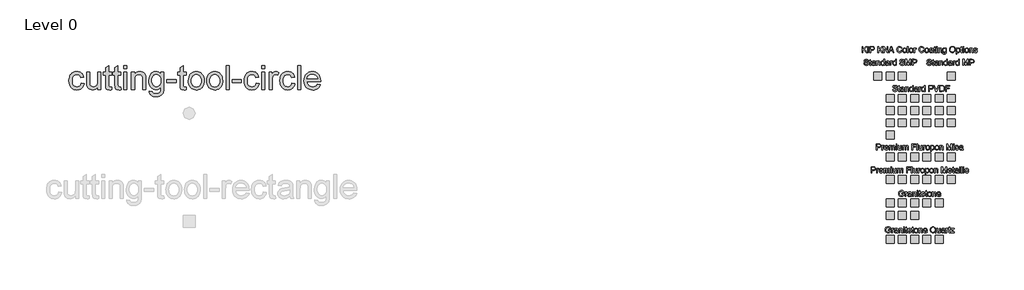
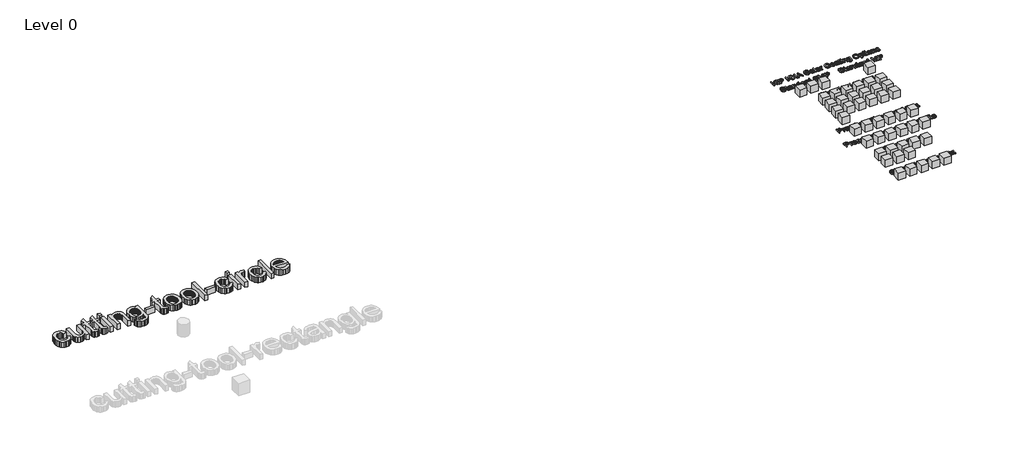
# One storey, part 3 of 3: 50 proxies.
"""IFC4 building model written with IfcOpenShell, lengths in millimetres."""

from ifc_helpers import new_model, si_unit, origin, origin_with_axes, place, context, project, spatial, polyline, outline, extrude, transform, mapped, element, save
from components import ks_color_sample_ks_color_sample_0243efec, r19_kna_color_range_kingspan_quadcore_4278cd54, r19_kna_color_range_kingspan_quadcore_c5814d20, r19_kna_color_range_kingspan_quadcore_91b79b7c

model = new_model("IFC4")

# Units and contexts
model_context = context("Model", 3, world=origin())
ifc_project = project(units=[si_unit("LENGTHUNIT", "METRE", prefix="MILLI")], contexts=[model_context])

# Site, building, storey
site = spatial("IfcSite", under=ifc_project)
building = spatial("IfcBuilding", under=site)
storey = spatial("IfcBuildingStorey", under=building, Name="Level 0", Elevation=0.0)

# Proxies
placement = place(None, origin())
element("IfcBuildingElementProxy", 1, Name="24\" Arial", ObjectType="24\" Arial", at=placement, inside=storey, context=model_context, shape_type="SweptSolid", body=[
    extrude(outline(polyline([(-7973.038933, 13462.8985617), (-7896.8971594, 13453.38084), (-7905.1786927, 13417.4523701), (-7918.1261402, 13385.6600195), (-7935.7395022, 13358.0037881), (-7958.0187784, 13334.4836761), (-7984.0252094, 13315.7131302), (-8012.8200353, 13302.3055975), (-8044.4032563, 13294.2610778), (-8078.7748724, 13291.5795713), (-8121.4791422, 13295.320668), (-8159.7684532, 13306.5439579), (-8193.6428055, 13325.2494412), (-8223.1021989, 13351.4371179), (-8246.9476237, 13384.6143713), (-8263.98007, 13424.2885852), (-8274.1995378, 13470.4597596), (-8277.606027, 13523.1278943), (-8271.7875761, 13590.8858934), (-8264.5145124, 13621.376993), (-8254.3322232, 13649.6094927), (-8241.1709987, 13675.0164187), (-8224.9611289, 13697.0307974), (-8205.702614, 13715.6526289), (-8183.3954537, 13730.881913), (-8159.0481178, 13742.7232972), (-8133.6690758, 13751.1814288), (-8107.2583276, 13756.2563078), (-8079.8158732, 13757.9479341), (-8046.0344674, 13755.6242716), (-8015.4783053, 13748.653284), (-7988.1473867, 13737.0349714), (-7964.0417117, 13720.7693337), (-7943.5702449, 13700.228157), (-7927.1419508, 13675.7832273), (-7914.7568296, 13647.4345445), (-7906.4148811, 13615.1821087), (-7982.5566547, 13605.6643871), (-7996.3685047, 13638.8834665), (-8017.876325, 13662.69636), (-8045.8904003, 13677.0287104), (-8079.2210156, 13681.8061606), (-8105.0926741, 13679.4546141), (-8128.4268931, 13672.3999747), (-8149.2236727, 13660.6422423), (-8167.4830128, 13644.181417), (-8182.3498056, 13622.6364181), (-8192.9689433, 13595.626165), (-8199.340426, 13563.1506576), (-8201.4642535, 13525.2098959), (-8199.3868992, 13486.6975133), (-8193.1548363, 13453.8455725), (-8182.7680649, 13426.6540737), (-8168.2265848, 13405.1230168), (-8150.3297361, 13388.7597853), (-8129.8768585, 13377.0717628), (-8106.8679522, 13370.0589493), (-8081.3030172, 13367.7213448), (-8041.8751115, 13373.5583851), (-8024.8240759, 13380.8546854), (-8009.5483185, 13391.0695058), (-7996.4753932, 13404.3143822), (-7986.0328538, 13420.7008503), (-7978.2207004, 13440.2289101), (-7973.038933, 13462.8985617)])), origin_with_axes(), (0.0, 0.0, 1.0), 152.4),
    extrude(outline(polyline([(-7544.7414569, 13301.097293), (-7544.7414569, 13377.9826385), (-7572.2907998, 13340.1812966), (-7604.3759319, 13313.1803381), (-7640.9968532, 13296.979763), (-7682.1535638, 13291.5795713), (-7719.2392177, 13295.3717885), (-7753.7595481, 13306.7484402), (-7782.7216778, 13323.8505964), (-7803.1327294, 13344.819327), (-7816.8702222, 13370.2866682), (-7825.8116756, 13400.8846563), (-7830.2731076, 13471.6727114), (-7830.2731076, 13748.4302124), (-7754.1313341, 13748.4302124), (-7754.1313341, 13507.5128821), (-7752.9787975, 13459.3294161), (-7749.5211877, 13429.8839646), (-7738.4233755, 13403.9890695), (-7719.4065214, 13384.3030006), (-7693.7346978, 13371.8667588), (-7662.6719772, 13367.7213448), (-7629.8246838, 13371.9597053), (-7599.0965706, 13384.6747866), (-7573.7593545, 13404.6954629), (-7557.0847522, 13430.8506082), (-7547.8272808, 13466.6721896), (-7544.7414569, 13515.6921742), (-7544.7414569, 13748.4302124), (-7468.5996834, 13748.4302124), (-7468.5996834, 13301.097293), (-7544.7414569, 13301.097293)])), origin_with_axes(), (0.0, 0.0, 1.0), 152.4),
    extrude(outline(polyline([(-7202.1034761, 13364.5983424), (-7192.5857544, 13298.866577), (-7222.7375993, 13293.4013227), (-7249.5433701, 13291.5795713), (-7286.0899343, 13294.7397523), (-7313.3418483, 13304.2202954), (-7332.6003633, 13318.8314854), (-7345.1667302, 13337.3836069), (-7352.0819499, 13369.2456674), (-7354.3870231, 13423.7866741), (-7354.3870231, 13672.2884389), (-7411.4933533, 13672.2884389), (-7411.4933533, 13748.4302124), (-7354.3870231, 13748.4302124), (-7354.3870231, 13857.1404398), (-7278.2452496, 13901.9034746), (-7278.2452496, 13748.4302124), (-7202.1034761, 13748.4302124), (-7202.1034761, 13672.2884389), (-7278.2452496, 13672.2884389), (-7278.2452496, 13426.0173902), (-7274.2299608, 13386.7567882), (-7261.2174507, 13372.8519917), (-7250.2311743, 13369.0040065), (-7235.2667876, 13367.7213448), (-7202.1034761, 13364.5983424)])), origin_with_axes(), (0.0, 0.0, 1.0), 152.4),
    extrude(outline(polyline([(-6964.1604339, 13364.5983424), (-6954.6427122, 13298.866577), (-6984.7945571, 13293.4013227), (-7011.6003279, 13291.5795713), (-7048.1468921, 13294.7397523), (-7075.3988061, 13304.2202954), (-7094.6573211, 13318.8314854), (-7107.223688, 13337.3836069), (-7114.1389077, 13369.2456674), (-7116.4439809, 13423.7866741), (-7116.4439809, 13672.2884389), (-7173.550311, 13672.2884389), (-7173.550311, 13748.4302124), (-7116.4439809, 13748.4302124), (-7116.4439809, 13857.1404398), (-7040.3022074, 13901.9034746), (-7040.3022074, 13748.4302124), (-6964.1604339, 13748.4302124), (-6964.1604339, 13672.2884389), (-7040.3022074, 13672.2884389), (-7040.3022074, 13426.0173902), (-7036.2869185, 13386.7567882), (-7023.2744084, 13372.8519917), (-7012.288132, 13369.0040065), (-6997.3237454, 13367.7213448), (-6964.1604339, 13364.5983424)])), origin_with_axes(), (0.0, 0.0, 1.0), 152.4),
    extrude(outline(polyline([(-6888.0186603, 13834.0897076), (-6888.0186603, 13910.2314811), (-6811.8768868, 13910.2314811), (-6811.8768868, 13834.0897076), (-6888.0186603, 13834.0897076)])), origin_with_axes(), (0.0, 0.0, 1.0), 152.4),
    extrude(outline(polyline([(-6888.0186603, 13301.097293), (-6888.0186603, 13748.4302124), (-6811.8768868, 13748.4302124), (-6811.8768868, 13301.097293), (-6888.0186603, 13301.097293)])), origin_with_axes(), (0.0, 0.0, 1.0), 152.4),
    extrude(outline(polyline([(-6697.6642265, 13301.097293), (-6697.6642265, 13748.4302124), (-6621.522453, 13748.4302124), (-6621.522453, 13685.9701638), (-6595.0698789, 13717.4604383), (-6563.3007649, 13739.9534915), (-6526.215111, 13753.4493234), (-6483.8129173, 13757.9479341), (-6446.2811203, 13754.3230206), (-6411.9095043, 13743.44828), (-6383.2448034, 13726.6807312), (-6362.8337518, 13705.3773932), (-6348.9847232, 13679.5940338), (-6340.0060912, 13649.3864211), (-6335.9908023, 13575.7727924), (-6335.9908023, 13301.097293), (-6412.1325759, 13301.097293), (-6412.1325759, 13565.5114987), (-6414.3261133, 13604.8836364), (-6420.9067255, 13632.8791225), (-6433.0455386, 13652.9369774), (-6451.9136782, 13668.4962216), (-6476.0983578, 13678.4786758), (-6504.1867903, 13681.8061606), (-6527.3072324, 13679.9379359), (-6548.7825214, 13674.3332619), (-6568.6126574, 13664.9921386), (-6586.7976403, 13651.9145659), (-6601.9897459, 13633.6133999), (-6612.8412499, 13608.6014965), (-6619.3521522, 13576.8788557), (-6621.522453, 13538.4454776), (-6621.522453, 13301.097293), (-6697.6642265, 13301.097293)])), origin_with_axes(), (0.0, 0.0, 1.0), 152.4),
    extrude(outline(polyline([(-6250.3313071, 13263.0264062), (-6174.1895336, 13253.5086845), (-6165.7871699, 13229.7143803), (-6149.502943, 13213.3557962), (-6117.4921681, 13200.6407148), (-6075.5918855, 13196.4023544), (-6030.9032079, 13201.1983938), (-6012.8529974, 13207.1934432), (-5997.6655392, 13215.5865122), (-5974.6148069, 13238.6372444), (-5960.4869388, 13269.4211255), (-5956.3601142, 13302.1754724), (-5955.2819348, 13358.2036231), (-5980.6191509, 13333.2196037), (-6008.8934765, 13315.3738755), (-6040.1049115, 13304.6664386), (-6074.2534559, 13301.097293), (-6116.0003767, 13305.2520016), (-6152.7560705, 13317.7161273), (-6184.5205372, 13338.4896703), (-6211.2937768, 13367.5726304), (-6232.5366995, 13402.4647468), (-6247.7102158, 13440.6657587), (-6256.8143256, 13482.175666), (-6259.8490288, 13526.9944687), (-6254.4023639, 13588.4692844), (-6238.062369, 13644.9993462), (-6225.95144, 13670.4899241), (-6211.4053126, 13692.9039728), (-6194.4239869, 13712.2414923), (-6175.0074628, 13728.5024826), (-6153.4671112, 13741.3848676), (-6130.1143029, 13750.5865712), (-6104.9490378, 13756.1075934), (-6077.9713159, 13757.9479341), (-6042.3635114, 13753.7839308), (-6010.0460131, 13741.2919211), (-5981.0188209, 13720.4719049), (-5955.2819348, 13691.3238823), (-5955.2819348, 13748.4302124), (-5879.1401612, 13748.4302124), (-5879.1401612, 13362.218912), (-5884.3451653, 13273.046039), (-5890.8514204, 13239.8780802), (-5899.9601774, 13214.3224398), (-5911.8898608, 13193.7115532), (-5926.8588948, 13175.3778559), (-5944.8672793, 13159.3213479), (-5965.9150145, 13145.5420291), (-5989.7883232, 13134.4813955), (-6016.2734286, 13126.5809429), (-6045.3703307, 13121.8406714), (-6077.0790295, 13120.2605809), (-6114.3831076, 13122.4866496), (-6147.9228525, 13129.1648557), (-6177.698264, 13140.2951991), (-6203.7093423, 13155.87768), (-6224.7198988, 13175.9308876), (-6239.4937451, 13200.4734111), (-6248.0308812, 13229.5052507), (-6250.3313071, 13263.0264062)]), holes=[polyline([(-6183.7072553, 13532.1994728), (-6181.6763743, 13494.5514926), (-6175.5837311, 13462.359472), (-6165.4293259, 13435.623411), (-6151.2131586, 13414.3433097), (-6133.9297568, 13398.1102033), (-6114.573648, 13386.5151273), (-6093.1448322, 13379.5580817), (-6069.6433094, 13377.2390665), (-6046.3741529, 13379.5441397), (-6025.0475783, 13386.4593594), (-6005.6635856, 13397.9847255), (-5988.2221747, 13414.120238), (-5973.8108197, 13435.1912098), (-5963.5169947, 13461.5229535), (-5957.3406998, 13493.1154691), (-5955.2819348, 13529.9687567), (-5957.401115, 13565.2837797), (-5963.7586556, 13595.9793617), (-5974.3545567, 13622.0555025), (-5989.1888183, 13643.5122022), (-6007.0066625, 13660.265809), (-6026.5533116, 13672.232671), (-6047.8287657, 13679.4127882), (-6070.8330246, 13681.8061606), (-6093.4515556, 13679.4499668), (-6114.3133978, 13672.3813854), (-6133.418551, 13660.6004164), (-6150.7670154, 13644.1070598), (-6165.1783704, 13622.9756728), (-6175.4721953, 13597.2806127), (-6181.6484903, 13567.0218793), (-6183.7072553, 13532.1994728)])]), origin_with_axes(), (0.0, 0.0, 1.0), 152.4),
    extrude(outline(polyline([(-5802.9983877, 13481.9340051), (-5802.9983877, 13558.0757786), (-5565.0553455, 13558.0757786), (-5565.0553455, 13481.9340051), (-5802.9983877, 13481.9340051)])), origin_with_axes(), (0.0, 0.0, 1.0), 152.4),
    extrude(outline(polyline([(-5317.5945816, 13364.5983424), (-5308.0768599, 13298.866577), (-5338.2287047, 13293.4013227), (-5365.0344756, 13291.5795713), (-5401.5810397, 13294.7397523), (-5428.8329538, 13304.2202954), (-5448.0914688, 13318.8314854), (-5460.6578357, 13337.3836069), (-5467.5730554, 13369.2456674), (-5469.8781286, 13423.7866741), (-5469.8781286, 13672.2884389), (-5526.9844587, 13672.2884389), (-5526.9844587, 13748.4302124), (-5469.8781286, 13748.4302124), (-5469.8781286, 13857.1404398), (-5393.7363551, 13901.9034746), (-5393.7363551, 13748.4302124), (-5317.5945816, 13748.4302124), (-5317.5945816, 13672.2884389), (-5393.7363551, 13672.2884389), (-5393.7363551, 13426.0173902), (-5389.7210662, 13386.7567882), (-5376.7085561, 13372.8519917), (-5365.7222797, 13369.0040065), (-5350.7578931, 13367.7213448), (-5317.5945816, 13364.5983424)])), origin_with_axes(), (0.0, 0.0, 1.0), 152.4),
    extrude(outline(polyline([(-5260.4882514, 13524.7637527), (-5256.3707214, 13582.6973067), (-5244.0181315, 13632.6188723), (-5223.4304815, 13674.5284496), (-5194.6077716, 13708.4260384), (-5165.589874, 13730.0918678), (-5133.5605098, 13745.5674602), (-5098.519679, 13754.8528156), (-5060.4673815, 13757.9479341), (-5018.4602105, 13754.1789535), (-4980.4776229, 13742.8720116), (-4946.5196188, 13724.0271086), (-4916.5861982, 13697.6442443), (-4892.1552104, 13664.6157052), (-4874.7045049, 13625.8337777), (-4864.2340816, 13581.2984618), (-4860.7439405, 13531.0097576), (-4862.2868524, 13490.2527169), (-4866.9155881, 13454.0872334), (-4874.6301477, 13422.5133071), (-4885.4305311, 13395.5309379), (-4899.1819659, 13372.2246028), (-4915.7496797, 13351.6787788), (-4935.1336724, 13333.8934658), (-4957.3339442, 13318.868664), (-4981.4860924, 13306.9296859), (-5006.7257147, 13298.4018445), (-5033.0528111, 13293.2851396), (-5060.4673815, 13291.5795713), (-5103.0879995, 13295.3346099), (-5141.4237838, 13306.5997258), (-5175.4747344, 13325.374919), (-5205.2408513, 13351.6601895), (-5229.4115888, 13385.009394), (-5246.6764014, 13424.9763894), (-5257.0352889, 13471.5611756), (-5260.4882514, 13524.7637527)]), holes=[polyline([(-5184.3464779, 13524.9124671), (-5182.1436458, 13487.980175), (-5175.5351496, 13456.0019313), (-5164.5209893, 13428.9777362), (-5149.1011648, 13406.9075896), (-5130.3445609, 13389.7636075), (-5109.3200624, 13377.517906), (-5086.0276693, 13370.1704851), (-5060.4673815, 13367.7213448), (-5035.0372189, 13370.1844271), (-5011.8377723, 13377.5736739), (-4990.8690417, 13389.8890853), (-4972.1310271, 13407.1306612), (-4956.7112026, 13429.4192321), (-4945.6970423, 13456.8756285), (-4939.088546, 13489.4998503), (-4936.885714, 13527.2918975), (-4939.102488, 13563.0530637), (-4945.7528102, 13594.1947888), (-4956.8366804, 13620.7170729), (-4972.3540987, 13642.6199158), (-4991.1618232, 13659.7638979), (-5012.1166118, 13672.0095994), (-5035.2184646, 13679.3570203), (-5060.4673815, 13681.8061606), (-5086.0276693, 13679.3663149), (-5109.3200624, 13672.046778), (-5130.3445609, 13659.8475497), (-5149.1011648, 13642.7686302), (-5164.5209893, 13620.7635461), (-5175.5351496, 13593.7858242), (-5182.1436458, 13561.8354646), (-5184.3464779, 13524.9124671)])]), origin_with_axes(), (0.0, 0.0, 1.0), 152.4),
    extrude(outline(polyline([(-4794.1198886, 13524.7637527), (-4790.0023586, 13582.6973067), (-4777.6497687, 13632.6188723), (-4757.0621187, 13674.5284496), (-4728.2394088, 13708.4260384), (-4699.2215112, 13730.0918678), (-4667.192147, 13745.5674602), (-4632.1513162, 13754.8528156), (-4594.0990187, 13757.9479341), (-4552.0918477, 13754.1789535), (-4514.1092601, 13742.8720116), (-4480.151256, 13724.0271086), (-4450.2178354, 13697.6442443), (-4425.7868476, 13664.6157052), (-4408.3361421, 13625.8337777), (-4397.8657188, 13581.2984618), (-4394.3755777, 13531.0097576), (-4395.9184896, 13490.2527169), (-4400.5472253, 13454.0872334), (-4408.2617849, 13422.5133071), (-4419.0621683, 13395.5309379), (-4432.8136031, 13372.2246028), (-4449.3813169, 13351.6787788), (-4468.7653096, 13333.8934658), (-4490.9655814, 13318.868664), (-4515.1177296, 13306.9296859), (-4540.3573519, 13298.4018445), (-4566.6844483, 13293.2851396), (-4594.0990187, 13291.5795713), (-4636.7196367, 13295.3346099), (-4675.055421, 13306.5997258), (-4709.1063716, 13325.374919), (-4738.8724885, 13351.6601895), (-4763.0432261, 13385.009394), (-4780.3080386, 13424.9763894), (-4790.6669261, 13471.5611756), (-4794.1198886, 13524.7637527)]), holes=[polyline([(-4717.9781151, 13524.9124671), (-4715.775283, 13487.980175), (-4709.1667868, 13456.0019313), (-4698.1526265, 13428.9777362), (-4682.732802, 13406.9075896), (-4663.9761981, 13389.7636075), (-4642.9516996, 13377.517906), (-4619.6593065, 13370.1704851), (-4594.0990187, 13367.7213448), (-4568.6688561, 13370.1844271), (-4545.4694095, 13377.5736739), (-4524.5006789, 13389.8890853), (-4505.7626643, 13407.1306612), (-4490.3428398, 13429.4192321), (-4479.3286795, 13456.8756285), (-4472.7201832, 13489.4998503), (-4470.5173512, 13527.2918975), (-4472.7341252, 13563.0530637), (-4479.3844474, 13594.1947888), (-4490.4683176, 13620.7170729), (-4505.9857359, 13642.6199158), (-4524.7934604, 13659.7638979), (-4545.748249, 13672.0095994), (-4568.8501018, 13679.3570203), (-4594.0990187, 13681.8061606), (-4619.6593065, 13679.3663149), (-4642.9516996, 13672.046778), (-4663.9761981, 13659.8475497), (-4682.732802, 13642.7686302), (-4698.1526265, 13620.7635461), (-4709.1667868, 13593.7858242), (-4715.775283, 13561.8354646), (-4717.9781151, 13524.9124671)])]), origin_with_axes(), (0.0, 0.0, 1.0), 152.4),
    extrude(outline(polyline([(-4308.7160825, 13301.097293), (-4308.7160825, 13910.2314811), (-4232.5743089, 13910.2314811), (-4232.5743089, 13301.097293), (-4308.7160825, 13301.097293)])), origin_with_axes(), (0.0, 0.0, 1.0), 152.4),
    extrude(outline(polyline([(-4156.4325354, 13481.9340051), (-4156.4325354, 13558.0757786), (-3918.4894932, 13558.0757786), (-3918.4894932, 13481.9340051), (-4156.4325354, 13481.9340051)])), origin_with_axes(), (0.0, 0.0, 1.0), 152.4),
    extrude(outline(polyline([(-3547.2983473, 13462.8985617), (-3471.1565738, 13453.38084), (-3479.438107, 13417.4523701), (-3492.3855546, 13385.6600195), (-3509.9989165, 13358.0037881), (-3532.2781927, 13334.4836761), (-3558.2846237, 13315.7131302), (-3587.0794497, 13302.3055975), (-3618.6626707, 13294.2610778), (-3653.0342867, 13291.5795713), (-3695.7385565, 13295.320668), (-3734.0278675, 13306.5439579), (-3767.9022198, 13325.2494412), (-3797.3616132, 13351.4371179), (-3821.207038, 13384.6143713), (-3838.2394843, 13424.2885852), (-3848.4589521, 13470.4597596), (-3851.8654413, 13523.1278943), (-3846.0469904, 13590.8858934), (-3838.7739267, 13621.376993), (-3828.5916375, 13649.6094927), (-3815.430413, 13675.0164187), (-3799.2205433, 13697.0307974), (-3779.9620283, 13715.6526289), (-3757.6548681, 13730.881913), (-3733.3075322, 13742.7232972), (-3707.9284901, 13751.1814288), (-3681.5177419, 13756.2563078), (-3654.0752875, 13757.9479341), (-3620.2938817, 13755.6242716), (-3589.7377196, 13748.653284), (-3562.406801, 13737.0349714), (-3538.301126, 13720.7693337), (-3517.8296592, 13700.228157), (-3501.4013651, 13675.7832273), (-3489.0162439, 13647.4345445), (-3480.6742955, 13615.1821087), (-3556.816069, 13605.6643871), (-3570.627919, 13638.8834665), (-3592.1357393, 13662.69636), (-3620.1498147, 13677.0287104), (-3653.4804299, 13681.8061606), (-3679.3520884, 13679.4546141), (-3702.6863074, 13672.3999747), (-3723.483087, 13660.6422423), (-3741.7424271, 13644.181417), (-3756.6092199, 13622.6364181), (-3767.2283577, 13595.626165), (-3773.5998403, 13563.1506576), (-3775.7236678, 13525.2098959), (-3773.6463135, 13486.6975133), (-3767.4142507, 13453.8455725), (-3757.0274792, 13426.6540737), (-3742.4859991, 13405.1230168), (-3724.5891504, 13388.7597853), (-3704.1362729, 13377.0717628), (-3681.1273666, 13370.0589493), (-3655.5624315, 13367.7213448), (-3616.1345258, 13373.5583851), (-3599.0834902, 13380.8546854), (-3583.8077328, 13391.0695058), (-3570.7348075, 13404.3143822), (-3560.2922681, 13420.7008503), (-3552.4801147, 13440.2289101), (-3547.2983473, 13462.8985617)])), origin_with_axes(), (0.0, 0.0, 1.0), 152.4),
    extrude(outline(polyline([(-3404.5325219, 13834.0897076), (-3404.5325219, 13910.2314811), (-3328.3907484, 13910.2314811), (-3328.3907484, 13834.0897076), (-3404.5325219, 13834.0897076)])), origin_with_axes(), (0.0, 0.0, 1.0), 152.4),
    extrude(outline(polyline([(-3404.5325219, 13301.097293), (-3404.5325219, 13748.4302124), (-3328.3907484, 13748.4302124), (-3328.3907484, 13301.097293), (-3404.5325219, 13301.097293)])), origin_with_axes(), (0.0, 0.0, 1.0), 152.4),
    extrude(outline(polyline([(-3214.1780881, 13301.097293), (-3214.1780881, 13748.4302124), (-3147.5540363, 13748.4302124), (-3147.5540363, 13682.2523038), (-3122.9418029, 13720.6206193), (-3100.2628567, 13743.2252083), (-3077.5095533, 13754.2672527), (-3052.6742482, 13757.9479341), (-3014.7520759, 13752.0737152), (-2976.2350459, 13734.4510587), (-3001.6652085, 13666.1911484), (-3028.4338008, 13677.9024075), (-3055.202393, 13681.8061606), (-3077.9371072, 13678.0511219), (-3098.2552123, 13666.786006), (-3114.6695643, 13648.8659207), (-3125.6930193, 13625.1459736), (-3134.9504908, 13582.6136548), (-3138.0363146, 13536.2147616), (-3138.0363146, 13301.097293), (-3214.1780881, 13301.097293)])), origin_with_axes(), (0.0, 0.0, 1.0), 152.4),
    extrude(outline(polyline([(-2643.1147868, 13462.8985617), (-2566.9730132, 13453.38084), (-2575.2545465, 13417.4523701), (-2588.201994, 13385.6600195), (-2605.815356, 13358.0037881), (-2628.0946322, 13334.4836761), (-2654.1010632, 13315.7131302), (-2682.8958891, 13302.3055975), (-2714.4791101, 13294.2610778), (-2748.8507262, 13291.5795713), (-2791.554996, 13295.320668), (-2829.844307, 13306.5439579), (-2863.7186593, 13325.2494412), (-2893.1780527, 13351.4371179), (-2917.0234775, 13384.6143713), (-2934.0559238, 13424.2885852), (-2944.2753916, 13470.4597596), (-2947.6818808, 13523.1278943), (-2941.8634299, 13590.8858934), (-2934.5903662, 13621.376993), (-2924.408077, 13649.6094927), (-2911.2468525, 13675.0164187), (-2895.0369827, 13697.0307974), (-2875.7784678, 13715.6526289), (-2853.4713075, 13730.881913), (-2829.1239716, 13742.7232972), (-2803.7449296, 13751.1814288), (-2777.3341814, 13756.2563078), (-2749.891727, 13757.9479341), (-2716.1103212, 13755.6242716), (-2685.5541591, 13748.653284), (-2658.2232405, 13737.0349714), (-2634.1175655, 13720.7693337), (-2613.6460987, 13700.228157), (-2597.2178046, 13675.7832273), (-2584.8326834, 13647.4345445), (-2576.4907349, 13615.1821087), (-2652.6325085, 13605.6643871), (-2666.4443585, 13638.8834665), (-2687.9521788, 13662.69636), (-2715.9662542, 13677.0287104), (-2749.2968694, 13681.8061606), (-2775.1685279, 13679.4546141), (-2798.5027469, 13672.3999747), (-2819.2995265, 13660.6422423), (-2837.5588666, 13644.181417), (-2852.4256594, 13622.6364181), (-2863.0447971, 13595.626165), (-2869.4162798, 13563.1506576), (-2871.5401073, 13525.2098959), (-2869.462753, 13486.6975133), (-2863.2306901, 13453.8455725), (-2852.8439187, 13426.6540737), (-2838.3024386, 13405.1230168), (-2820.4055899, 13388.7597853), (-2799.9527123, 13377.0717628), (-2776.9438061, 13370.0589493), (-2751.378871, 13367.7213448), (-2711.9509653, 13373.5583851), (-2694.8999297, 13380.8546854), (-2679.6241723, 13391.0695058), (-2666.551247, 13404.3143822), (-2656.1087076, 13420.7008503), (-2648.2965542, 13440.2289101), (-2643.1147868, 13462.8985617)])), origin_with_axes(), (0.0, 0.0, 1.0), 152.4),
    extrude(outline(polyline([(-2500.3489614, 13301.097293), (-2500.3489614, 13910.2314811), (-2424.2071879, 13910.2314811), (-2424.2071879, 13301.097293), (-2500.3489614, 13301.097293)])), origin_with_axes(), (0.0, 0.0, 1.0), 152.4),
    extrude(outline(polyline([(-1996.8019983, 13434.3453966), (-1922.1473688, 13424.827675), (-1933.5937304, 13394.9267856), (-1949.0460861, 13368.5764526), (-1968.5044361, 13345.776676), (-1991.9687802, 13326.5274556), (-2019.1974577, 13311.2377562), (-2049.9488075, 13300.3165424), (-2084.2228297, 13293.7638141), (-2122.0195243, 13291.5795713), (-2169.2642307, 13295.3485519), (-2211.3597009, 13306.6554937), (-2248.305935, 13325.5003968), (-2280.1029329, 13351.8832611), (-2305.6725153, 13385.0698092), (-2323.9365028, 13424.3257638), (-2334.8948952, 13469.651125), (-2338.5476927, 13521.0458927), (-2334.8577166, 13574.1834072), (-2323.7877884, 13621.019149), (-2305.3379079, 13661.553118), (-2279.5080753, 13695.7853143), (-2247.7947292, 13722.9814605), (-2211.6943083, 13742.4072791), (-2171.2068125, 13754.0627704), (-2126.3322419, 13757.9479341), (-2082.9029894, 13754.072065), (-2043.6284454, 13742.4444577), (-2008.5086101, 13723.0651123), (-1977.5434833, 13695.9340287), (-1952.2666824, 13661.7761896), (-1934.2118246, 13621.3165778), (-1923.3789099, 13574.5551932), (-1919.7679384, 13521.4920359), (-1920.2140816, 13500.9694485), (-2262.4059192, 13500.9694485), (-2257.9956077, 13470.5852373), (-2249.2261054, 13443.9746541), (-2236.0974121, 13421.1376989), (-2218.609528, 13402.0743715), (-2197.7290965, 13387.0449223), (-2174.4227615, 13376.3096015), (-2148.6905227, 13369.868409), (-2120.5323802, 13367.7213448), (-2080.0077059, 13371.699455), (-2045.8777507, 13383.6337858), (-2018.1425149, 13404.267909), (-1996.8019983, 13434.3453966)]), holes=[polyline([(-2262.4059192, 13577.111222), (-1995.9097119, 13577.111222), (-2006.2081842, 13617.3384676), (-2015.0659857, 13633.157962), (-2026.3961642, 13646.1147042), (-2047.1604125, 13661.7297164), (-2070.787413, 13672.8832965), (-2097.2771657, 13679.5754445), (-2126.6296707, 13681.8061606), (-2153.4029103, 13680.0262351), (-2177.9547285, 13674.6864586), (-2200.2851253, 13665.7868311), (-2220.3941008, 13653.3273527), (-2237.268538, 13637.8842916), (-2249.8953202, 13620.0339161), (-2258.2744472, 13599.7762262), (-2262.4059192, 13577.111222)])]), origin_with_axes(), (0.0, 0.0, 1.0), 152.4),
])
ks_color_sample_ks_color_sample_shape = ks_color_sample_ks_color_sample_0243efec(model_context)
element("IfcBuildingElementProxy", 2, Name="KS_Color Sample : KS_Color Sample", ObjectType="KS_Color Sample : KS_Color Sample", at=placement, inside=storey, context=model_context, shape_type="MappedRepresentation", body=[
    mapped(ks_color_sample_ks_color_sample_shape, transform((12786.5853815, 12769.2290821, 0.0), x_axis=(1.0, 0.0, 0.0), y_axis=(0.0, 1.0, 0.0), z_axis=(0.0, 0.0, 1.0))),
])
element("IfcBuildingElementProxy", 3, Name="KS_Color Sample : KS_Color Sample", ObjectType="KS_Color Sample : KS_Color Sample", at=placement, inside=storey, context=model_context, shape_type="MappedRepresentation", body=[
    mapped(ks_color_sample_ks_color_sample_shape, transform((12166.5853815, 13639.2290821, 0.0), x_axis=(1.0, 0.0, 0.0), y_axis=(0.0, 1.0, 0.0), z_axis=(0.0, 0.0, 1.0))),
])
element("IfcBuildingElementProxy", 4, Name="KS_Color Sample : KS_Color Sample", ObjectType="KS_Color Sample : KS_Color Sample", at=placement, inside=storey, context=model_context, shape_type="MappedRepresentation", body=[
    mapped(ks_color_sample_ks_color_sample_shape, transform((12476.5853815, 13639.2290821, 0.0), x_axis=(1.0, 0.0, 0.0), y_axis=(0.0, 1.0, 0.0), z_axis=(0.0, 0.0, 1.0))),
])
element("IfcBuildingElementProxy", 5, Name="KS_Color Sample : KS_Color Sample", ObjectType="KS_Color Sample : KS_Color Sample", at=placement, inside=storey, context=model_context, shape_type="MappedRepresentation", body=[
    mapped(ks_color_sample_ks_color_sample_shape, transform((12786.5853815, 13639.2290821, 0.0), x_axis=(1.0, 0.0, 0.0), y_axis=(0.0, 1.0, 0.0), z_axis=(0.0, 0.0, 1.0))),
])
element("IfcBuildingElementProxy", 6, Name="KS_Color Sample : KS_Color Sample", ObjectType="KS_Color Sample : KS_Color Sample", at=placement, inside=storey, context=model_context, shape_type="MappedRepresentation", body=[
    mapped(ks_color_sample_ks_color_sample_shape, transform((14026.5853815, 13639.2290821, 0.0), x_axis=(1.0, 0.0, 0.0), y_axis=(0.0, 1.0, 0.0), z_axis=(0.0, 0.0, 1.0))),
])
element("IfcBuildingElementProxy", 7, Name="KS_Color Sample : KS_Color Sample", ObjectType="KS_Color Sample : KS_Color Sample", at=placement, inside=storey, context=model_context, shape_type="MappedRepresentation", body=[
    mapped(ks_color_sample_ks_color_sample_shape, transform((12786.5853815, 13079.2290821, 0.0), x_axis=(1.0, 0.0, 0.0), y_axis=(0.0, 1.0, 0.0), z_axis=(0.0, 0.0, 1.0))),
])
element("IfcBuildingElementProxy", 8, Name="KS_Color Sample : KS_Color Sample", ObjectType="KS_Color Sample : KS_Color Sample", at=placement, inside=storey, context=model_context, shape_type="MappedRepresentation", body=[
    mapped(ks_color_sample_ks_color_sample_shape, transform((13096.5853815, 13079.2290821, 0.0), x_axis=(1.0, 0.0, 0.0), y_axis=(0.0, 1.0, 0.0), z_axis=(0.0, 0.0, 1.0))),
])
element("IfcBuildingElementProxy", 9, Name="KS_Color Sample : KS_Color Sample", ObjectType="KS_Color Sample : KS_Color Sample", at=placement, inside=storey, context=model_context, shape_type="MappedRepresentation", body=[
    mapped(ks_color_sample_ks_color_sample_shape, transform((13406.5853815, 13079.2290821, 0.0), x_axis=(1.0, 0.0, 0.0), y_axis=(0.0, 1.0, 0.0), z_axis=(0.0, 0.0, 1.0))),
])
element("IfcBuildingElementProxy", 10, Name="KS_Color Sample : KS_Color Sample", ObjectType="KS_Color Sample : KS_Color Sample", at=placement, inside=storey, context=model_context, shape_type="MappedRepresentation", body=[
    mapped(ks_color_sample_ks_color_sample_shape, transform((13716.5853815, 13079.2290821, 0.0), x_axis=(1.0, 0.0, 0.0), y_axis=(0.0, 1.0, 0.0), z_axis=(0.0, 0.0, 1.0))),
])
element("IfcBuildingElementProxy", 11, Name="KS_Color Sample : KS_Color Sample", ObjectType="KS_Color Sample : KS_Color Sample", at=placement, inside=storey, context=model_context, shape_type="MappedRepresentation", body=[
    mapped(ks_color_sample_ks_color_sample_shape, transform((12476.5853815, 11599.2290821, 0.0), x_axis=(1.0, 0.0, 0.0), y_axis=(0.0, 1.0, 0.0), z_axis=(0.0, 0.0, 1.0))),
])
element("IfcBuildingElementProxy", 12, Name="KS_Color Sample : KS_Color Sample", ObjectType="KS_Color Sample : KS_Color Sample", at=placement, inside=storey, context=model_context, shape_type="MappedRepresentation", body=[
    mapped(ks_color_sample_ks_color_sample_shape, transform((12786.5853815, 11599.2290821, 0.0), x_axis=(1.0, 0.0, 0.0), y_axis=(0.0, 1.0, 0.0), z_axis=(0.0, 0.0, 1.0))),
])
element("IfcBuildingElementProxy", 13, Name="KS_Color Sample : KS_Color Sample", ObjectType="KS_Color Sample : KS_Color Sample", at=placement, inside=storey, context=model_context, shape_type="MappedRepresentation", body=[
    mapped(ks_color_sample_ks_color_sample_shape, transform((13096.5853815, 11599.2290821, 0.0), x_axis=(1.0, 0.0, 0.0), y_axis=(0.0, 1.0, 0.0), z_axis=(0.0, 0.0, 1.0))),
])
element("IfcBuildingElementProxy", 14, Name="KS_Color Sample : KS_Color Sample", ObjectType="KS_Color Sample : KS_Color Sample", at=placement, inside=storey, context=model_context, shape_type="MappedRepresentation", body=[
    mapped(ks_color_sample_ks_color_sample_shape, transform((13406.5853815, 11599.2290821, 0.0), x_axis=(1.0, 0.0, 0.0), y_axis=(0.0, 1.0, 0.0), z_axis=(0.0, 0.0, 1.0))),
])
element("IfcBuildingElementProxy", 15, Name="KS_Color Sample : KS_Color Sample", ObjectType="KS_Color Sample : KS_Color Sample", at=placement, inside=storey, context=model_context, shape_type="MappedRepresentation", body=[
    mapped(ks_color_sample_ks_color_sample_shape, transform((14026.5853815, 13079.2290821, 0.0), x_axis=(1.0, 0.0, 0.0), y_axis=(0.0, 1.0, 0.0), z_axis=(0.0, 0.0, 1.0))),
])
element("IfcBuildingElementProxy", 16, Name="KS_Color Sample : KS_Color Sample", ObjectType="KS_Color Sample : KS_Color Sample", at=placement, inside=storey, context=model_context, shape_type="MappedRepresentation", body=[
    mapped(ks_color_sample_ks_color_sample_shape, transform((13716.5853815, 12769.2290821, 0.0), x_axis=(1.0, 0.0, 0.0), y_axis=(0.0, 1.0, 0.0), z_axis=(0.0, 0.0, 1.0))),
])
element("IfcBuildingElementProxy", 17, Name="KS_Color Sample : KS_Color Sample", ObjectType="KS_Color Sample : KS_Color Sample", at=placement, inside=storey, context=model_context, shape_type="MappedRepresentation", body=[
    mapped(ks_color_sample_ks_color_sample_shape, transform((14026.5853815, 12769.2290821, 0.0), x_axis=(1.0, 0.0, 0.0), y_axis=(0.0, 1.0, 0.0), z_axis=(0.0, 0.0, 1.0))),
])
element("IfcBuildingElementProxy", 18, Name="KS_Color Sample : KS_Color Sample", ObjectType="KS_Color Sample : KS_Color Sample", at=placement, inside=storey, context=model_context, shape_type="MappedRepresentation", body=[
    mapped(ks_color_sample_ks_color_sample_shape, transform((12476.5853815, 12769.2290821, 0.0), x_axis=(1.0, 0.0, 0.0), y_axis=(0.0, 1.0, 0.0), z_axis=(0.0, 0.0, 1.0))),
])
element("IfcBuildingElementProxy", 19, Name="KS_Color Sample : KS_Color Sample", ObjectType="KS_Color Sample : KS_Color Sample", at=placement, inside=storey, context=model_context, shape_type="MappedRepresentation", body=[
    mapped(ks_color_sample_ks_color_sample_shape, transform((13096.5853815, 12769.2290821, 0.0), x_axis=(1.0, 0.0, 0.0), y_axis=(0.0, 1.0, 0.0), z_axis=(0.0, 0.0, 1.0))),
])
element("IfcBuildingElementProxy", 20, Name="KS_Color Sample : KS_Color Sample", ObjectType="KS_Color Sample : KS_Color Sample", at=placement, inside=storey, context=model_context, shape_type="MappedRepresentation", body=[
    mapped(ks_color_sample_ks_color_sample_shape, transform((13406.5853815, 12769.2290821, 0.0), x_axis=(1.0, 0.0, 0.0), y_axis=(0.0, 1.0, 0.0), z_axis=(0.0, 0.0, 1.0))),
])
element("IfcBuildingElementProxy", 21, Name="KS_Color Sample : KS_Color Sample", ObjectType="KS_Color Sample : KS_Color Sample", at=placement, inside=storey, context=model_context, shape_type="MappedRepresentation", body=[
    mapped(ks_color_sample_ks_color_sample_shape, transform((12476.5853815, 12459.2290821, 0.0), x_axis=(1.0, 0.0, 0.0), y_axis=(0.0, 1.0, 0.0), z_axis=(0.0, 0.0, 1.0))),
])
element("IfcBuildingElementProxy", 22, Name="KS_Color Sample : KS_Color Sample", ObjectType="KS_Color Sample : KS_Color Sample", at=placement, inside=storey, context=model_context, shape_type="MappedRepresentation", body=[
    mapped(ks_color_sample_ks_color_sample_shape, transform((12786.5853815, 12459.2290821, 0.0), x_axis=(1.0, 0.0, 0.0), y_axis=(0.0, 1.0, 0.0), z_axis=(0.0, 0.0, 1.0))),
])
element("IfcBuildingElementProxy", 23, Name="KS_Color Sample : KS_Color Sample", ObjectType="KS_Color Sample : KS_Color Sample", at=placement, inside=storey, context=model_context, shape_type="MappedRepresentation", body=[
    mapped(ks_color_sample_ks_color_sample_shape, transform((13096.5853815, 12459.2290821, 0.0), x_axis=(1.0, 0.0, 0.0), y_axis=(0.0, 1.0, 0.0), z_axis=(0.0, 0.0, 1.0))),
])
element("IfcBuildingElementProxy", 24, Name="KS_Color Sample : KS_Color Sample", ObjectType="KS_Color Sample : KS_Color Sample", at=placement, inside=storey, context=model_context, shape_type="MappedRepresentation", body=[
    mapped(ks_color_sample_ks_color_sample_shape, transform((13406.5853815, 12459.2290821, 0.0), x_axis=(1.0, 0.0, 0.0), y_axis=(0.0, 1.0, 0.0), z_axis=(0.0, 0.0, 1.0))),
])
element("IfcBuildingElementProxy", 25, Name="KS_Color Sample : KS_Color Sample", ObjectType="KS_Color Sample : KS_Color Sample", at=placement, inside=storey, context=model_context, shape_type="MappedRepresentation", body=[
    mapped(ks_color_sample_ks_color_sample_shape, transform((13716.5853815, 12459.2290821, 0.0), x_axis=(1.0, 0.0, 0.0), y_axis=(0.0, 1.0, 0.0), z_axis=(0.0, 0.0, 1.0))),
])
element("IfcBuildingElementProxy", 26, Name="KS_Color Sample : KS_Color Sample", ObjectType="KS_Color Sample : KS_Color Sample", at=placement, inside=storey, context=model_context, shape_type="MappedRepresentation", body=[
    mapped(ks_color_sample_ks_color_sample_shape, transform((14026.5853815, 12459.2290821, 0.0), x_axis=(1.0, 0.0, 0.0), y_axis=(0.0, 1.0, 0.0), z_axis=(0.0, 0.0, 1.0))),
])
element("IfcBuildingElementProxy", 27, Name="KS_Color Sample : KS_Color Sample", ObjectType="KS_Color Sample : KS_Color Sample", at=placement, inside=storey, context=model_context, shape_type="MappedRepresentation", body=[
    mapped(ks_color_sample_ks_color_sample_shape, transform((12476.5853815, 12149.2290821, 0.0), x_axis=(1.0, 0.0, 0.0), y_axis=(0.0, 1.0, 0.0), z_axis=(0.0, 0.0, 1.0))),
])
element("IfcBuildingElementProxy", 28, Name="KS_Color Sample : KS_Color Sample", ObjectType="KS_Color Sample : KS_Color Sample", at=placement, inside=storey, context=model_context, shape_type="MappedRepresentation", body=[
    mapped(ks_color_sample_ks_color_sample_shape, transform((13716.5853815, 11599.2290821, 0.0), x_axis=(1.0, 0.0, 0.0), y_axis=(0.0, 1.0, 0.0), z_axis=(0.0, 0.0, 1.0))),
])
element("IfcBuildingElementProxy", 29, Name="KS_Color Sample : KS_Color Sample", ObjectType="KS_Color Sample : KS_Color Sample", at=placement, inside=storey, context=model_context, shape_type="MappedRepresentation", body=[
    mapped(ks_color_sample_ks_color_sample_shape, transform((14026.5853815, 11599.2290821, 0.0), x_axis=(1.0, 0.0, 0.0), y_axis=(0.0, 1.0, 0.0), z_axis=(0.0, 0.0, 1.0))),
])
element("IfcBuildingElementProxy", 30, Name="KS_Color Sample : KS_Color Sample", ObjectType="KS_Color Sample : KS_Color Sample", at=placement, inside=storey, context=model_context, shape_type="MappedRepresentation", body=[
    mapped(ks_color_sample_ks_color_sample_shape, transform((12476.5853815, 11029.2290821, 0.0), x_axis=(1.0, 0.0, 0.0), y_axis=(0.0, 1.0, 0.0), z_axis=(0.0, 0.0, 1.0))),
])
element("IfcBuildingElementProxy", 31, Name="KS_Color Sample : KS_Color Sample", ObjectType="KS_Color Sample : KS_Color Sample", at=placement, inside=storey, context=model_context, shape_type="MappedRepresentation", body=[
    mapped(ks_color_sample_ks_color_sample_shape, transform((12786.5853815, 11029.2290821, 0.0), x_axis=(1.0, 0.0, 0.0), y_axis=(0.0, 1.0, 0.0), z_axis=(0.0, 0.0, 1.0))),
])
element("IfcBuildingElementProxy", 32, Name="KS_Color Sample : KS_Color Sample", ObjectType="KS_Color Sample : KS_Color Sample", at=placement, inside=storey, context=model_context, shape_type="MappedRepresentation", body=[
    mapped(ks_color_sample_ks_color_sample_shape, transform((13096.5853815, 11029.2290821, 0.0), x_axis=(1.0, 0.0, 0.0), y_axis=(0.0, 1.0, 0.0), z_axis=(0.0, 0.0, 1.0))),
])
element("IfcBuildingElementProxy", 33, Name="KS_Color Sample : KS_Color Sample", ObjectType="KS_Color Sample : KS_Color Sample", at=placement, inside=storey, context=model_context, shape_type="MappedRepresentation", body=[
    mapped(ks_color_sample_ks_color_sample_shape, transform((13406.5853815, 11029.2290821, 0.0), x_axis=(1.0, 0.0, 0.0), y_axis=(0.0, 1.0, 0.0), z_axis=(0.0, 0.0, 1.0))),
])
element("IfcBuildingElementProxy", 34, Name="KS_Color Sample : KS_Color Sample", ObjectType="KS_Color Sample : KS_Color Sample", at=placement, inside=storey, context=model_context, shape_type="MappedRepresentation", body=[
    mapped(ks_color_sample_ks_color_sample_shape, transform((13716.5853815, 11029.2290821, 0.0), x_axis=(1.0, 0.0, 0.0), y_axis=(0.0, 1.0, 0.0), z_axis=(0.0, 0.0, 1.0))),
])
element("IfcBuildingElementProxy", 35, Name="KS_Color Sample : KS_Color Sample", ObjectType="KS_Color Sample : KS_Color Sample", at=placement, inside=storey, context=model_context, shape_type="MappedRepresentation", body=[
    mapped(ks_color_sample_ks_color_sample_shape, transform((14026.5853815, 11029.2290821, 0.0), x_axis=(1.0, 0.0, 0.0), y_axis=(0.0, 1.0, 0.0), z_axis=(0.0, 0.0, 1.0))),
])
element("IfcBuildingElementProxy", 36, Name="KS_Color Sample : KS_Color Sample", ObjectType="KS_Color Sample : KS_Color Sample", at=placement, inside=storey, context=model_context, shape_type="MappedRepresentation", body=[
    mapped(ks_color_sample_ks_color_sample_shape, transform((12476.5853815, 10429.2290821, 0.0), x_axis=(1.0, 0.0, 0.0), y_axis=(0.0, 1.0, 0.0), z_axis=(0.0, 0.0, 1.0))),
])
element("IfcBuildingElementProxy", 37, Name="KS_Color Sample : KS_Color Sample", ObjectType="KS_Color Sample : KS_Color Sample", at=placement, inside=storey, context=model_context, shape_type="MappedRepresentation", body=[
    mapped(ks_color_sample_ks_color_sample_shape, transform((12786.5853815, 10429.2290821, 0.0), x_axis=(1.0, 0.0, 0.0), y_axis=(0.0, 1.0, 0.0), z_axis=(0.0, 0.0, 1.0))),
])
element("IfcBuildingElementProxy", 38, Name="KS_Color Sample : KS_Color Sample", ObjectType="KS_Color Sample : KS_Color Sample", at=placement, inside=storey, context=model_context, shape_type="MappedRepresentation", body=[
    mapped(ks_color_sample_ks_color_sample_shape, transform((13096.5853815, 10429.2290821, 0.0), x_axis=(1.0, 0.0, 0.0), y_axis=(0.0, 1.0, 0.0), z_axis=(0.0, 0.0, 1.0))),
])
element("IfcBuildingElementProxy", 39, Name="KS_Color Sample : KS_Color Sample", ObjectType="KS_Color Sample : KS_Color Sample", at=placement, inside=storey, context=model_context, shape_type="MappedRepresentation", body=[
    mapped(ks_color_sample_ks_color_sample_shape, transform((13406.5853815, 10429.2290821, 0.0), x_axis=(1.0, 0.0, 0.0), y_axis=(0.0, 1.0, 0.0), z_axis=(0.0, 0.0, 1.0))),
])
element("IfcBuildingElementProxy", 40, Name="KS_Color Sample : KS_Color Sample", ObjectType="KS_Color Sample : KS_Color Sample", at=placement, inside=storey, context=model_context, shape_type="MappedRepresentation", body=[
    mapped(ks_color_sample_ks_color_sample_shape, transform((13716.5853815, 10429.2290821, 0.0), x_axis=(1.0, 0.0, 0.0), y_axis=(0.0, 1.0, 0.0), z_axis=(0.0, 0.0, 1.0))),
])
element("IfcBuildingElementProxy", 41, Name="KS_Color Sample : KS_Color Sample", ObjectType="KS_Color Sample : KS_Color Sample", at=placement, inside=storey, context=model_context, shape_type="MappedRepresentation", body=[
    mapped(ks_color_sample_ks_color_sample_shape, transform((12476.5853815, 10119.2290821, 0.0), x_axis=(1.0, 0.0, 0.0), y_axis=(0.0, 1.0, 0.0), z_axis=(0.0, 0.0, 1.0))),
])
element("IfcBuildingElementProxy", 42, Name="KS_Color Sample : KS_Color Sample", ObjectType="KS_Color Sample : KS_Color Sample", at=placement, inside=storey, context=model_context, shape_type="MappedRepresentation", body=[
    mapped(ks_color_sample_ks_color_sample_shape, transform((12786.5853815, 10119.2290821, 0.0), x_axis=(1.0, 0.0, 0.0), y_axis=(0.0, 1.0, 0.0), z_axis=(0.0, 0.0, 1.0))),
])
element("IfcBuildingElementProxy", 43, Name="KS_Color Sample : KS_Color Sample", ObjectType="KS_Color Sample : KS_Color Sample", at=placement, inside=storey, context=model_context, shape_type="MappedRepresentation", body=[
    mapped(ks_color_sample_ks_color_sample_shape, transform((13096.5853815, 10119.2290821, 0.0), x_axis=(1.0, 0.0, 0.0), y_axis=(0.0, 1.0, 0.0), z_axis=(0.0, 0.0, 1.0))),
])
element("IfcBuildingElementProxy", 44, Name="KS_Color Sample : KS_Color Sample", ObjectType="KS_Color Sample : KS_Color Sample", at=placement, inside=storey, context=model_context, shape_type="MappedRepresentation", body=[
    mapped(ks_color_sample_ks_color_sample_shape, transform((12476.5853815, 9509.2290821, 0.0), x_axis=(1.0, 0.0, 0.0), y_axis=(0.0, 1.0, 0.0), z_axis=(0.0, 0.0, 1.0))),
])
element("IfcBuildingElementProxy", 45, Name="KS_Color Sample : KS_Color Sample", ObjectType="KS_Color Sample : KS_Color Sample", at=placement, inside=storey, context=model_context, shape_type="MappedRepresentation", body=[
    mapped(ks_color_sample_ks_color_sample_shape, transform((12786.5853815, 9509.2290821, 0.0), x_axis=(1.0, 0.0, 0.0), y_axis=(0.0, 1.0, 0.0), z_axis=(0.0, 0.0, 1.0))),
])
element("IfcBuildingElementProxy", 46, Name="KS_Color Sample : KS_Color Sample", ObjectType="KS_Color Sample : KS_Color Sample", at=placement, inside=storey, context=model_context, shape_type="MappedRepresentation", body=[
    mapped(ks_color_sample_ks_color_sample_shape, transform((13096.5853815, 9509.2290821, 0.0), x_axis=(1.0, 0.0, 0.0), y_axis=(0.0, 1.0, 0.0), z_axis=(0.0, 0.0, 1.0))),
])
element("IfcBuildingElementProxy", 47, Name="KS_Color Sample : KS_Color Sample", ObjectType="KS_Color Sample : KS_Color Sample", at=placement, inside=storey, context=model_context, shape_type="MappedRepresentation", body=[
    mapped(ks_color_sample_ks_color_sample_shape, transform((13406.5853815, 9509.2290821, 0.0), x_axis=(1.0, 0.0, 0.0), y_axis=(0.0, 1.0, 0.0), z_axis=(0.0, 0.0, 1.0))),
])
element("IfcBuildingElementProxy", 48, Name="KS_Color Sample : KS_Color Sample", ObjectType="KS_Color Sample : KS_Color Sample", at=placement, inside=storey, context=model_context, shape_type="MappedRepresentation", body=[
    mapped(ks_color_sample_ks_color_sample_shape, transform((13716.5853815, 9509.2290821, 0.0), x_axis=(1.0, 0.0, 0.0), y_axis=(0.0, 1.0, 0.0), z_axis=(0.0, 0.0, 1.0))),
])
element("IfcBuildingElementProxy", 49, Name="KS_Color Sample : KS_Color Sample", ObjectType="KS_Color Sample : KS_Color Sample", at=placement, inside=storey, context=model_context, shape_type="MappedRepresentation", body=[
    mapped(ks_color_sample_ks_color_sample_shape, transform((12476.5853815, 13079.2290821, 0.0), x_axis=(1.0, 0.0, 0.0), y_axis=(0.0, 1.0, 0.0), z_axis=(0.0, 0.0, 1.0))),
])
r19_kna_color_range_kingspan_quadcore_shape = r19_kna_color_range_kingspan_quadcore_4278cd54(model_context)
r19_kna_color_range_kingspan_quadcore_2_shape = r19_kna_color_range_kingspan_quadcore_c5814d20(model_context)
r19_kna_color_range_kingspan_quadcore_3_shape = r19_kna_color_range_kingspan_quadcore_91b79b7c(model_context)
element("IfcBuildingElementProxy", 50, Name="R19_KNA_Color Range : Kingspan Quadcore", ObjectType="R19_KNA_Color Range : Kingspan Quadcore", at=placement, inside=storey, context=model_context, shape_type="MappedRepresentation", body=[
    mapped(r19_kna_color_range_kingspan_quadcore_shape, transform((13221.5853815, 13539.2290821, 0.0), x_axis=(1.0, 0.0, 0.0), y_axis=(0.0, 1.0, 0.0), z_axis=(0.0, 0.0, 1.0))),
    mapped(r19_kna_color_range_kingspan_quadcore_2_shape, transform((13221.5853815, 13539.2290821, 0.0), x_axis=(1.0, 0.0, 0.0), y_axis=(0.0, 1.0, 0.0), z_axis=(0.0, 0.0, 1.0))),
    mapped(r19_kna_color_range_kingspan_quadcore_3_shape, transform((13221.5853815, 13539.2290821, 0.0), x_axis=(1.0, 0.0, 0.0), y_axis=(0.0, 1.0, 0.0), z_axis=(0.0, 0.0, 1.0))),
])

save(model, "model.ifc")
